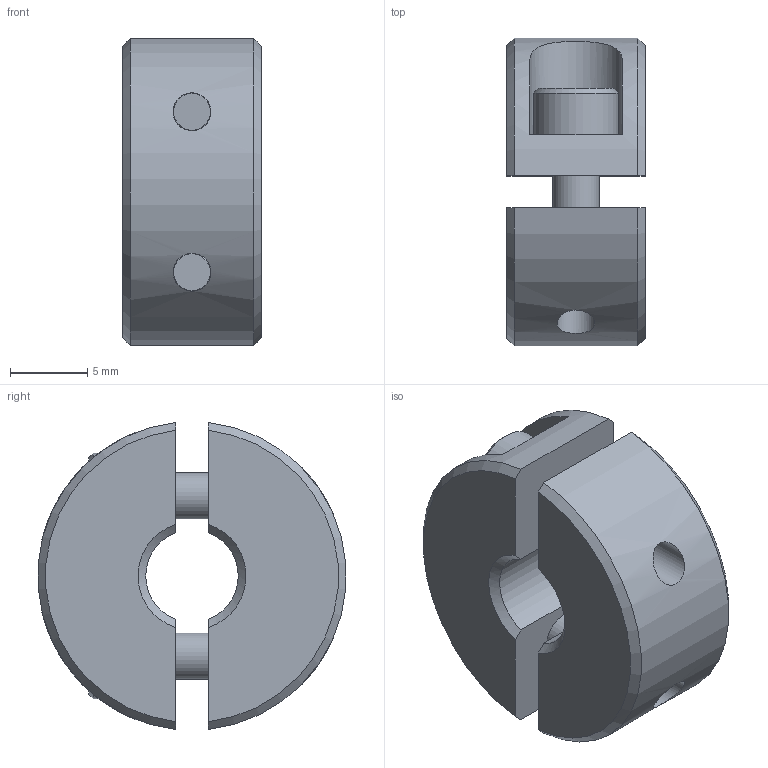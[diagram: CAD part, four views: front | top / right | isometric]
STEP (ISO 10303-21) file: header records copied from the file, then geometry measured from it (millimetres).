
FILE_DESCRIPTION(/* description */ ('STEP AP214'),/* implementation_level */ '2;1');
FILE_NAME(/* name */ 'Split Shaft Collar_ Aluminum GN 707.2-20-B6-AL',/* time_stamp */ '2024-06-04T10:40:47+02:00',/* author */ ('License CC BY-ND 4.0'),/* organization */ ('CADENAS'),/* preprocessor_version */ 'ST-DEVELOPER v19.3',/* originating_system */ 'PARTsolutions',/* authorisation */ ' ');
FILE_SCHEMA (('AUTOMOTIVE_DESIGN {1 0 10303 214 3 1 1}'));
Length unit declared in the file: millimetre
Products named in the file (1): Split Shaft Collar, Aluminum GN 707.2-20-B6-AL
Bounding box: 9 x 19.93 x 19.89 mm (x, y, z)
Volume: 2095.6 mm3; surface area: 1809.2 mm2
Topology: 1 solids, 1 shells, 72 faces, 168 edges, 108 vertices
Faces by surface type: plane 44, cylinder 14, cone 14
Full cylindrical faces by diameter (mm): 2.459 x2, 3 x2, 3.3 x2, 5.5 x2
Entity records: 2490 total; most frequent: CARTESIAN_POINT 405, DIRECTION 324, ORIENTED_EDGE 292, EDGE_CURVE 146, AXIS2_PLACEMENT_3D 125, VERTEX_POINT 102, FACE_BOUND 100, EDGE_LOOP 98
